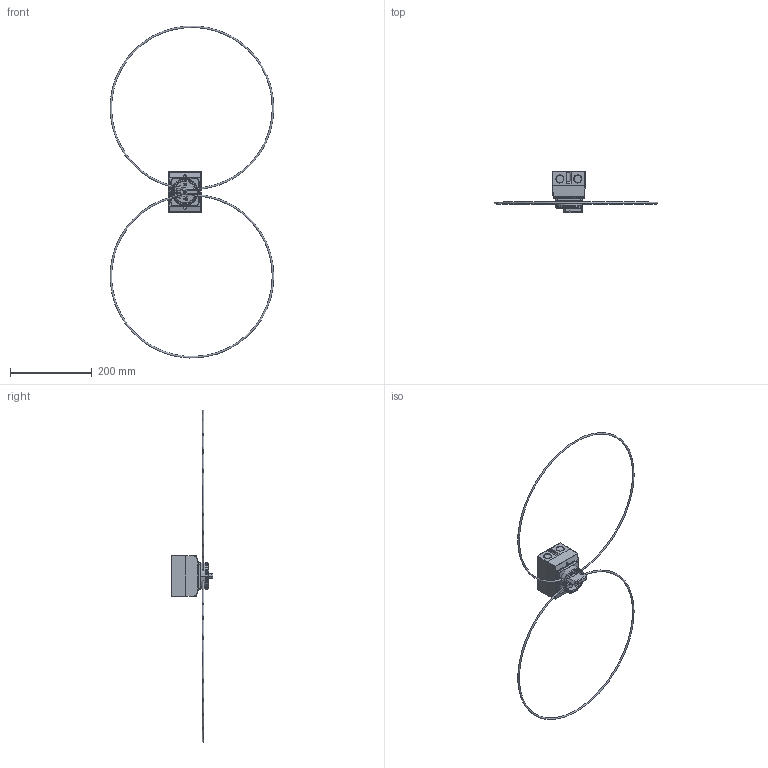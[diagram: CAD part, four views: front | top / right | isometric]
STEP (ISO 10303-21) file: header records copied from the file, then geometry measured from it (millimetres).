
FILE_DESCRIPTION((''),'2;1');
FILE_NAME('20_ASM','2023-08-25T',('xiaokai.shi'),(''),'PRO/ENGINEER BY PARAMETRIC TECHNOLOGY CORPORATION, 2015440','PRO/ENGINEER BY PARAMETRIC TECHNOLOGY CORPORATION, 2015440','');
FILE_SCHEMA(('CONFIG_CONTROL_DESIGN'));
Length unit declared in the file: millimetre
Products named in the file (1): 20_ASM
Bounding box: 401.61 x 102 x 814.39 mm (x, y, z)
Surface area: 94926.9 mm2 (no closed solid volume)
Topology: 0 solids, 0 shells, 486 faces, 2508 edges, 2502 vertices
Faces by surface type: bspline 471, sphere 8, torus 7
Entity records: 39729 total; most frequent: CARTESIAN_POINT 16333, DIRECTION 3688, TRIMMED_CURVE 3409, VECTOR 3160, LINE 3160, DEFINITIONAL_REPRESENTATION 2500, PCURVE 2500, COMPOSITE_CURVE_SEGMENT 2500
